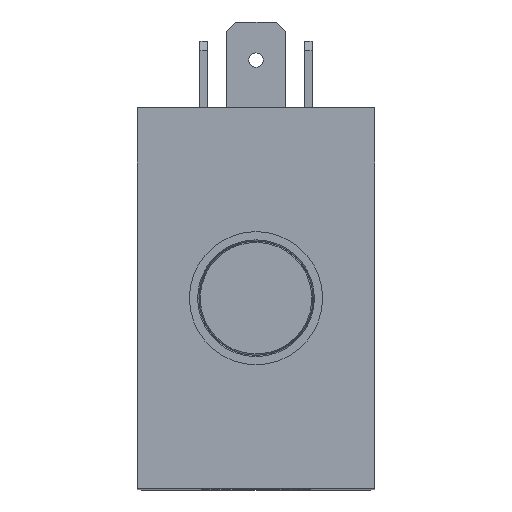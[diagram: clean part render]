
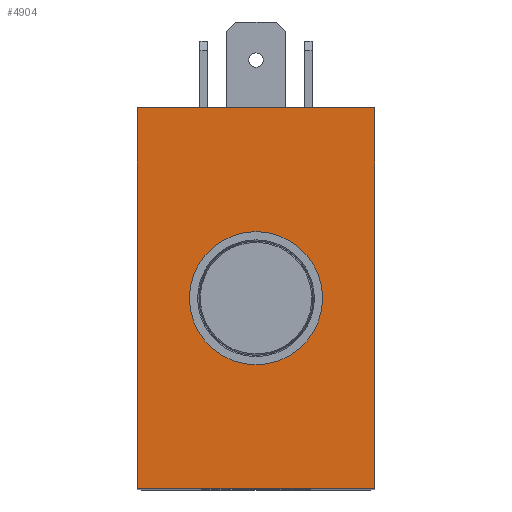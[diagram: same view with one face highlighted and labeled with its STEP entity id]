
A CAD part, top view. The second image highlights one B-rep face of the part: STEP entity #4904.
In plain terms, the highlighted planar face has unit normal (0, 0, 1).
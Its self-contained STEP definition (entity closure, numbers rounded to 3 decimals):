
#2313 = VERTEX_POINT ( 'NONE', #2314 ) ;
#2314 = CARTESIAN_POINT ( 'NONE',  ( -7., 0., 74. ) ) ;
#3038 = CARTESIAN_POINT ( 'NONE',  ( -12.5, -20., 74. ) ) ;
#3049 = DIRECTION ( 'NONE',  ( 0., 1., 0. ) ) ;
#3106 = DIRECTION ( 'NONE',  ( 0., -1., 0. ) ) ;
#3107 = CARTESIAN_POINT ( 'NONE',  ( 12.5, 20., 74. ) ) ;
#3119 = DIRECTION ( 'NONE',  ( -1., 0., 0. ) ) ;
#3125 = CARTESIAN_POINT ( 'NONE',  ( 12.5, -20., 74. ) ) ;
#3276 = ORIENTED_EDGE ( 'NONE', *, *, #4396, .T. ) ;
#3277 = ORIENTED_EDGE ( 'NONE', *, *, #4387, .F. ) ;
#3278 = ORIENTED_EDGE ( 'NONE', *, *, #4305, .F. ) ;
#3279 = ORIENTED_EDGE ( 'NONE', *, *, #4342, .F. ) ;
#3339 = ORIENTED_EDGE ( 'NONE', *, *, #4328, .F. ) ;
#4216 = DIRECTION ( 'NONE',  ( 1., 0., 0. ) ) ;
#4218 = CARTESIAN_POINT ( 'NONE',  ( -12.5, 20., 74. ) ) ;
#4246 = DIRECTION ( 'NONE',  ( 0., 0., -1. ) ) ;
#4247 = DIRECTION ( 'NONE',  ( -1., 0., 0. ) ) ;
#4251 = CARTESIAN_POINT ( 'NONE',  ( 0., 0., 74. ) ) ;
#4305 = EDGE_CURVE ( 'NONE', #5595, #5596, #8098, .T. ) ;
#4328 = EDGE_CURVE ( 'NONE', #5594, #5595, #8115, .T. ) ;
#4342 = EDGE_CURVE ( 'NONE', #5596, #5405, #8153, .T. ) ;
#4387 = EDGE_CURVE ( 'NONE', #5405, #5594, #8207, .T. ) ;
#4396 = EDGE_CURVE ( 'NONE', #2313, #2313, #8225, .T. ) ;
#4904 = ADVANCED_FACE ( 'NONE', ( #11710, #11711 ), #10649, .F. ) ;
#5405 = VERTEX_POINT ( 'NONE', #16925 ) ;
#5594 = VERTEX_POINT ( 'NONE', #17114 ) ;
#5595 = VERTEX_POINT ( 'NONE', #17115 ) ;
#5596 = VERTEX_POINT ( 'NONE', #17116 ) ;
#6477 = AXIS2_PLACEMENT_3D ( 'NONE', #4251, #4246, #4247 ) ;
#6801 = AXIS2_PLACEMENT_3D ( 'NONE', #10642, #10657, #10658 ) ;
#7557 = EDGE_LOOP ( 'NONE', ( #3276 ) ) ;
#7573 = EDGE_LOOP ( 'NONE', ( #3279, #3278, #3339, #3277 ) ) ;
#8087 = VECTOR ( 'NONE', #3119, 1000. ) ;
#8098 = LINE ( 'NONE', #3125, #8087 ) ;
#8115 = LINE ( 'NONE', #3107, #8126 ) ;
#8126 = VECTOR ( 'NONE', #3106, 1000. ) ;
#8153 = LINE ( 'NONE', #3038, #8154 ) ;
#8154 = VECTOR ( 'NONE', #3049, 1000. ) ;
#8207 = LINE ( 'NONE', #4218, #8213 ) ;
#8213 = VECTOR ( 'NONE', #4216, 1000. ) ;
#8225 = CIRCLE ( 'NONE', #6477, 7. ) ;
#10642 = CARTESIAN_POINT ( 'NONE',  ( -9.25, 0., 74. ) ) ;
#10649 = PLANE ( 'NONE',  #6801 ) ;
#10657 = DIRECTION ( 'NONE',  ( 0., 0., -1. ) ) ;
#10658 = DIRECTION ( 'NONE',  ( 0.707, 0.707, 0. ) ) ;
#11710 = FACE_OUTER_BOUND ( 'NONE', #7573, .T. ) ;
#11711 = FACE_BOUND ( 'NONE', #7557, .T. ) ;
#16925 = CARTESIAN_POINT ( 'NONE',  ( -12.5, 20., 74. ) ) ;
#17114 = CARTESIAN_POINT ( 'NONE',  ( 12.5, 20., 74. ) ) ;
#17115 = CARTESIAN_POINT ( 'NONE',  ( 12.5, -20., 74. ) ) ;
#17116 = CARTESIAN_POINT ( 'NONE',  ( -12.5, -20., 74. ) ) ;
